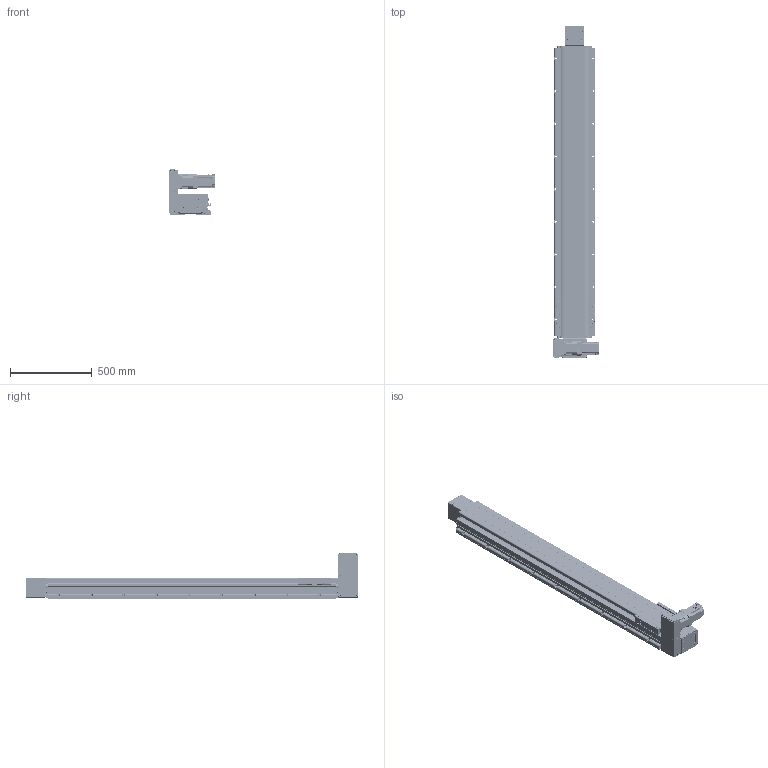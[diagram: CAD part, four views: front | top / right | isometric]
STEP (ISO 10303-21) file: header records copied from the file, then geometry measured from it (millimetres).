
FILE_DESCRIPTION(/* description */ (''),/* implementation_level */ '2;1');
FILE_NAME(/* name */ '\\192.168.0.160\disk1\HAN SHIN Master\B-설계부문\C-표준\B-2024년\BC02-표준도면\+로봇 개선표준도면\홈페이지 표준 도면\홈페이지 최종 작업 폴더\3D\HSB\HSB210\UL\HSB210-UL7G-N-1500-R.stp',/* time_stamp */ '2025-06-19T09:32:53+09:00',/* author */ ('user'),/* organization */ (''),/* preprocessor_version */ 'ST-DEVELOPER v18.1',/* originating_system */ 'Autodesk Inventor 2022',/* authorisation */ '');
FILE_SCHEMA (('AUTOMOTIVE_DESIGN { 1 0 10303 214 3 1 1 }'));
Products named in the file (37): HSB210-UL7G-N-0500-R; HSB210 BASE - 2000ST; HSB210 FORNT HOUSUNG-Connecting Shaft; HSB160 SHAFT-1; HSB160 BEARING OVER; HSB210 FRONT COVER; REAR HOUSUNG-1-R1; HSB160 ARC COVER; HSB160 REAR SHAFT-2; REAR SHAFT--2; 6004ZZ; 6004ZZ Outer ring; 6004ZZ Shield1; 6004ZZ Inner ring; 6004ZZ Ball; 6004ZZ Shield2; UPCOVER; SIDE COVER; PGX90-H-1_3; HR200 SENSOR DOG; hsr_ftht_A-M6F_grease_nipple_joint; NIPPLE CAP(신규); SENSOR BRK(EE-SX674A); EE_SX674A; 6308ZZ; TENSION PLATE; HSB210 END COVER-1; HG90STOPPER - 27L; HSB210 TABLE (TEST); hg-kr73_; HSB210 U MOTOR PLATE ASSY; HSB210 D BELT COVER-R1; HG200DACRYLCOVER003; 750W MOTOR PLATE; HSB210 U BELT COVER; HG200DACRYLCOVER001; HG200DACRYLCOVER002
Assembly tree (70 placements, depth 3):
  HSB210-UL7G-N-0500-R
    HSB210 BASE - 2000ST
    HSB210 FRONT COVER  x2
    HSB210 FORNT HOUSUNG-Connecting Shaft
    HSB160 SHAFT-1
    HSB160 BEARING OVER
    HSB160 ARC COVER  x4
    REAR HOUSUNG-1-R1
    HSB160 REAR SHAFT-2
    REAR SHAFT--2
    6004ZZ  x2
      6004ZZ Outer ring
      6004ZZ Shield1
      6004ZZ Inner ring
      6004ZZ Ball
      6004ZZ Shield2
    TENSION PLATE  x2
    UPCOVER
    SIDE COVER  x2
    PGX90-H-1_3
    HG90STOPPER - 27L  x4
    HR200 SENSOR DOG
    SENSOR BRK(EE-SX674A)  x3
    EE_SX674A  x3
    NIPPLE CAP(신규)  x4
    hsr_ftht_A-M6F_grease_nipple_joint  x4
    6308ZZ  x2
    HSB210 END COVER-1
    HSB210 TABLE (TEST)
    hg-kr73_
    HSB210 U MOTOR PLATE ASSY
      HSB210 D BELT COVER-R1
      HG200DACRYLCOVER003
      750W MOTOR PLATE
      HSB210 U BELT COVER
      HG200DACRYLCOVER001
      HG200DACRYLCOVER002  x2
Bounding box: 284.5 x 2034 x 278.5 mm (x, y, z)
Volume: 19339979.7 mm3; surface area: 4253488.4 mm2
Topology: 131 solids, 133 shells, 8017 faces, 22321 edges, 14741 vertices
Faces by surface type: plane 6049, cylinder 1412, cone 388, sphere 84, torus 59, bspline 25
Full cylindrical faces by diameter (mm): 2.013 x2, 2.459 x50, 3 x8, 3.2 x4, 3.242 x48, 3.4 x22, 3.5 x6, 4.134 x2, 4.2 x16, 4.5 x36, 4.917 x36, 5 x56, 5.1 x1, 5.5 x13, 5.6 x4, 5.9 x4, 6 x15, 6.5 x9, 6.6 x8, 6.647 x48, 6.8 x9, 7 x20, 7.6 x4, 8 x13, 8.433 x2, 9 x46, 9.5 x7, 10 x5, 10.106 x18, 11 x20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
Entity records: 175657 total; most frequent: CARTESIAN_POINT 34162, ORIENTED_EDGE 29312, DIRECTION 28104, EDGE_CURVE 14656, LINE 11356, VECTOR 11356, VERTEX_POINT 9766, AXIS2_PLACEMENT_3D 8374
